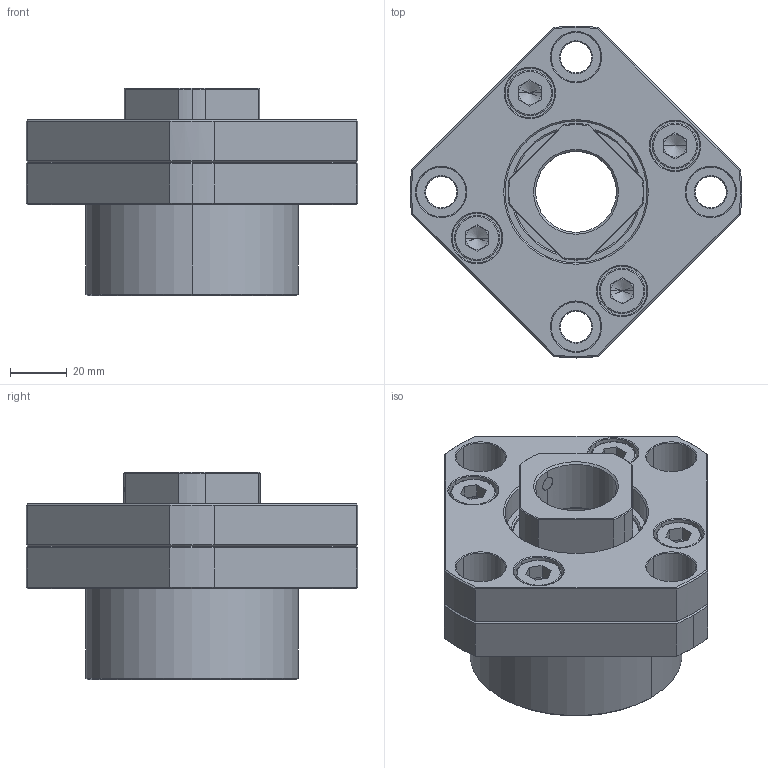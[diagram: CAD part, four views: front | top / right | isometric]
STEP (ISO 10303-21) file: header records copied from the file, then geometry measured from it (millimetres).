
FILE_DESCRIPTION (( 'STEP AP203' ), '1' );
FILE_NAME ('FSGK-30_203.STEP', '2013-02-28T00:29:34', ( '' ), ( '' ), 'SwSTEP 2.0', 'SolidWorks 2012', '' );
FILE_SCHEMA (( 'CONFIG_CONTROL_DESIGN' ));
Length unit declared in the file: millimetre
Products named in the file (1): FSGK-30_203
Bounding box: 116.88 x 117 x 73 mm (x, y, z)
Volume: 325361.9 mm3; surface area: 62799.5 mm2
Topology: 1 solids, 16 shells, 430 faces, 954 edges, 562 vertices
Faces by surface type: plane 138, cone 134, cylinder 118, torus 40
Entity records: 11980 total; most frequent: DIRECTION 2229, CARTESIAN_POINT 2194, ORIENTED_EDGE 1872, EDGE_CURVE 936, AXIS2_PLACEMENT_3D 917, VERTEX_POINT 562, CIRCLE 486, EDGE_LOOP 484
